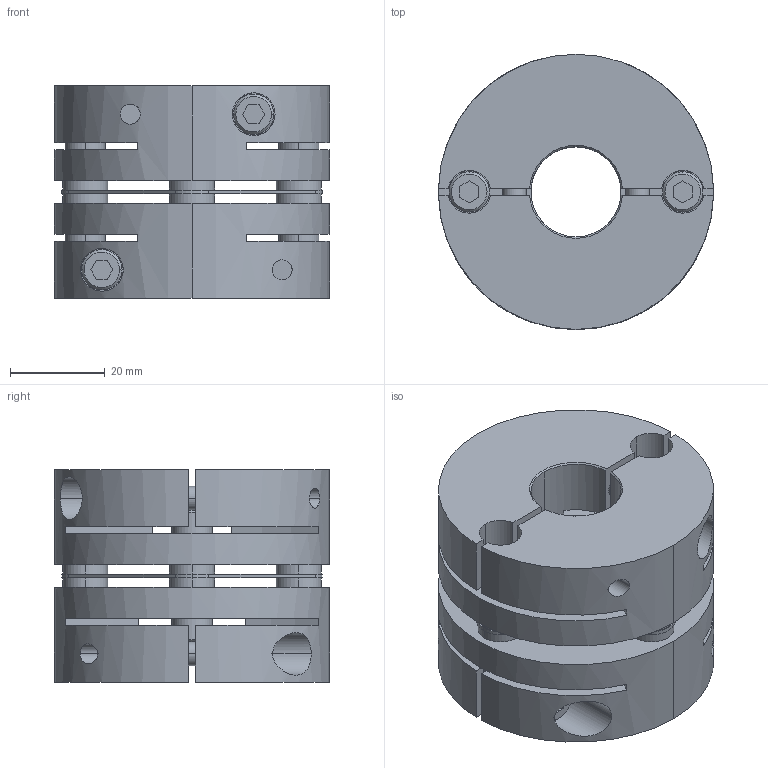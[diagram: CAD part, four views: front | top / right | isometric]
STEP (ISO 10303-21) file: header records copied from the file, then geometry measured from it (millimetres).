
FILE_DESCRIPTION((''),'2;1');
FILE_NAME('LAS-58C-19×25.stp','2015-10-15T14:55:38',(''),(''),'AutoCAD STEP 2000i','AutoCAD 2000i',', , ');
FILE_SCHEMA(('CONFIG_CONTROL_DESIGN'));
Length unit declared in the file: millimetre
Products named in the file (6): LAS-58C-12×19; 忣兜1; LA-5802-D19; LA-5802-D12-1; LA-5802-D12; LAS58-ITA
Assembly tree (5 placements, depth 2):
  LAS-58C-12×19
    忣兜1
    LA-5802-D19
    LA-5802-D12-1
    LA-5802-D12
    LAS58-ITA
Bounding box: 58 x 58 x 44.8 mm (x, y, z)
Volume: 81422.5 mm3; surface area: 32588.6 mm2
Topology: 1 solids, 1 shells, 238 faces, 618 edges, 404 vertices
Faces by surface type: plane 114, cylinder 96, cone 28
Entity records: 8213 total; most frequent: CARTESIAN_POINT 1988, DIRECTION 1316, ORIENTED_EDGE 1240, EDGE_CURVE 620, AXIS2_PLACEMENT_3D 484, VERTEX_POINT 404, VECTOR 348, LINE 348
